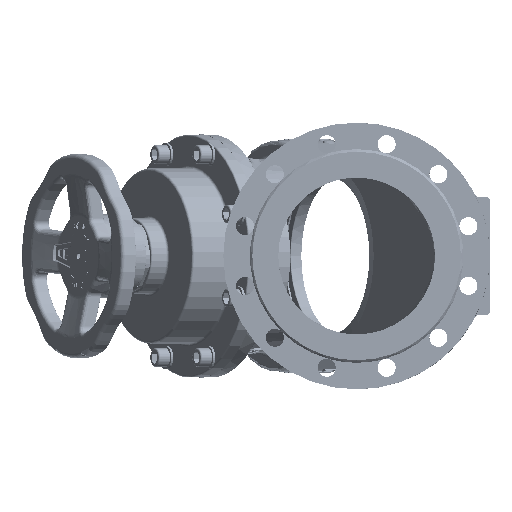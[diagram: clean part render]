
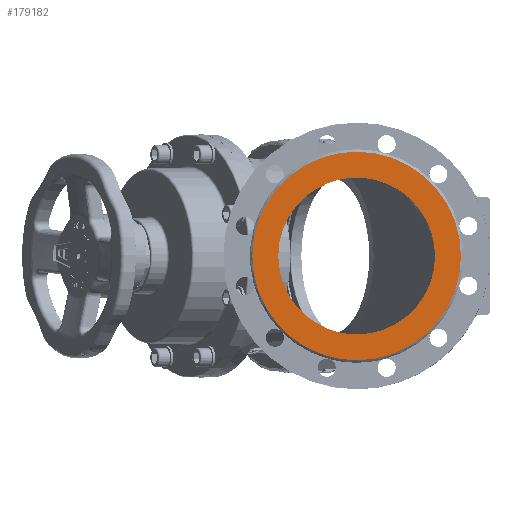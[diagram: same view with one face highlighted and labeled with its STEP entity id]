
A CAD part, left-side view. The second image highlights one B-rep face of the part: STEP entity #179182.
In plain terms, the highlighted planar face has unit normal (-1, 0, 0).
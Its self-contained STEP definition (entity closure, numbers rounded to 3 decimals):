
#5919 = ORIENTED_EDGE ( 'NONE', *, *, #183206, .T. ) ;
#14489 = AXIS2_PLACEMENT_3D ( 'NONE', #108358, #20450, #266454 ) ;
#16371 = EDGE_LOOP ( 'NONE', ( #133461, #5919 ) ) ;
#19520 = ORIENTED_EDGE ( 'NONE', *, *, #193597, .F. ) ;
#20450 = DIRECTION ( 'NONE',  ( 1., 0., 0. ) ) ;
#23875 = CIRCLE ( 'NONE', #14489, 100. ) ;
#37583 = DIRECTION ( 'NONE',  ( 0., 0., -1. ) ) ;
#39000 = CARTESIAN_POINT ( 'NONE',  ( -300., 0., 0. ) ) ;
#72970 = DIRECTION ( 'NONE',  ( 0., 0., -1. ) ) ;
#73510 = VERTEX_POINT ( 'NONE', #238681 ) ;
#82557 = CIRCLE ( 'NONE', #143388, 133. ) ;
#85092 = CARTESIAN_POINT ( 'NONE',  ( -300., 0., 100. ) ) ;
#86274 = DIRECTION ( 'NONE',  ( 1., 0., 0. ) ) ;
#93365 = ORIENTED_EDGE ( 'NONE', *, *, #131723, .F. ) ;
#108358 = CARTESIAN_POINT ( 'NONE',  ( -300., 0., 0. ) ) ;
#111642 = CIRCLE ( 'NONE', #256557, 133. ) ;
#115724 = VERTEX_POINT ( 'NONE', #270187 ) ;
#131723 = EDGE_CURVE ( 'NONE', #180022, #115724, #111642, .T. ) ;
#133461 = ORIENTED_EDGE ( 'NONE', *, *, #219657, .T. ) ;
#143388 = AXIS2_PLACEMENT_3D ( 'NONE', #197610, #86274, #175616 ) ;
#148813 = DIRECTION ( 'NONE',  ( 1., 0., 0. ) ) ;
#153650 = FACE_BOUND ( 'NONE', #16371, .T. ) ;
#160841 = DIRECTION ( 'NONE',  ( 1., 0., 0. ) ) ;
#175616 = DIRECTION ( 'NONE',  ( 0., 0., -1. ) ) ;
#179182 = ADVANCED_FACE ( 'NONE', ( #153650, #262124 ), #263539, .T. ) ;
#180022 = VERTEX_POINT ( 'NONE', #214207 ) ;
#183206 = EDGE_CURVE ( 'NONE', #279505, #73510, #210851, .T. ) ;
#193597 = EDGE_CURVE ( 'NONE', #115724, #180022, #82557, .T. ) ;
#194771 = CARTESIAN_POINT ( 'NONE',  ( -300., 100., 0. ) ) ;
#197610 = CARTESIAN_POINT ( 'NONE',  ( -300., 0., 0. ) ) ;
#210851 = CIRCLE ( 'NONE', #262240, 100. ) ;
#214207 = CARTESIAN_POINT ( 'NONE',  ( -300., 0., -133. ) ) ;
#219657 = EDGE_CURVE ( 'NONE', #73510, #279505, #23875, .T. ) ;
#238681 = CARTESIAN_POINT ( 'NONE',  ( -300., 0., -100. ) ) ;
#241573 = DIRECTION ( 'NONE',  ( 0., 0., 1. ) ) ;
#248736 = CARTESIAN_POINT ( 'NONE',  ( -300., 0., 0. ) ) ;
#252694 = AXIS2_PLACEMENT_3D ( 'NONE', #194771, #284078, #241573 ) ;
#256557 = AXIS2_PLACEMENT_3D ( 'NONE', #248736, #160841, #72970 ) ;
#262124 = FACE_OUTER_BOUND ( 'NONE', #273148, .T. ) ;
#262240 = AXIS2_PLACEMENT_3D ( 'NONE', #39000, #148813, #37583 ) ;
#263539 = PLANE ( 'NONE',  #252694 ) ;
#266454 = DIRECTION ( 'NONE',  ( 0., 0., -1. ) ) ;
#270187 = CARTESIAN_POINT ( 'NONE',  ( -300., 0., 133. ) ) ;
#273148 = EDGE_LOOP ( 'NONE', ( #93365, #19520 ) ) ;
#279505 = VERTEX_POINT ( 'NONE', #85092 ) ;
#284078 = DIRECTION ( 'NONE',  ( -1., 0., 0. ) ) ;
